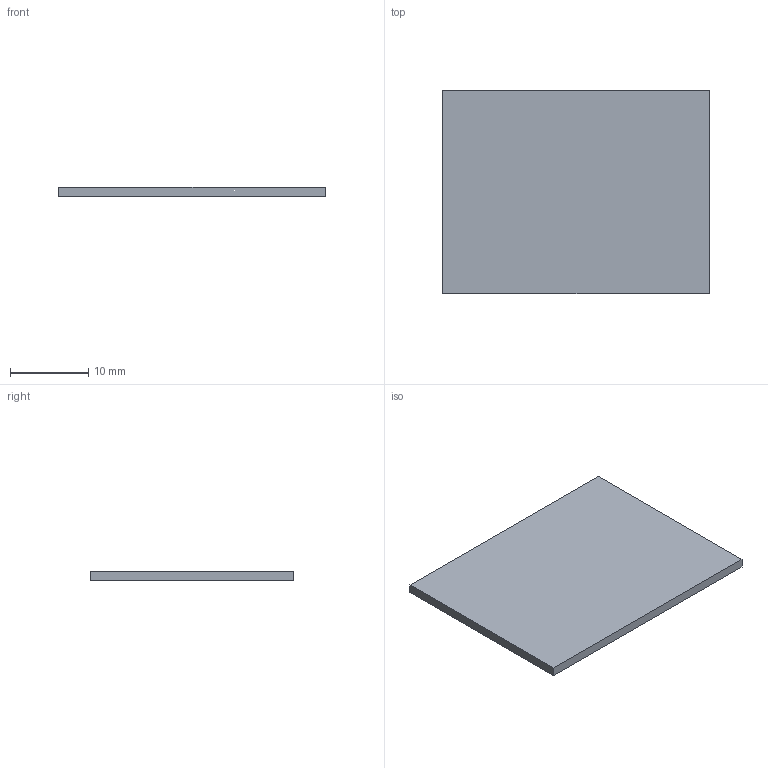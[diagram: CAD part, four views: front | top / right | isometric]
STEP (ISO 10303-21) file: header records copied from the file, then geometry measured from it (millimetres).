
FILE_DESCRIPTION(('Open CASCADE Model'),'2;1');
FILE_NAME('Open CASCADE Shape Model','2026-09-13T21:36:16',('Author'),( 'Open CASCADE'),'Open CASCADE STEP processor 7.9','Open CASCADE 7.9' ,'Unknown');
FILE_SCHEMA(('AUTOMOTIVE_DESIGN { 1 0 10303 214 1 1 1 1 }'));
Length unit declared in the file: millimetre
Products named in the file (1): Open CASCADE STEP translator 7.9 20
Bounding box: 34 x 26 x 1.2 mm (x, y, z)
Volume: 1060.8 mm3; surface area: 1912 mm2
Topology: 1 solids, 1 shells, 6 faces, 12 edges, 8 vertices
Faces by surface type: plane 6
Entity records: 322 total; most frequent: CARTESIAN_POINT 51, DIRECTION 50, LINE 36, VECTOR 36, ORIENTED_EDGE 24, PCURVE 24, DEFINITIONAL_REPRESENTATION 24, EDGE_CURVE 12
